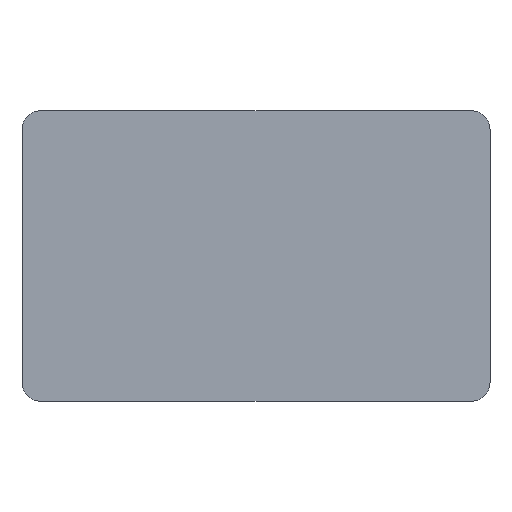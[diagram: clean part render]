
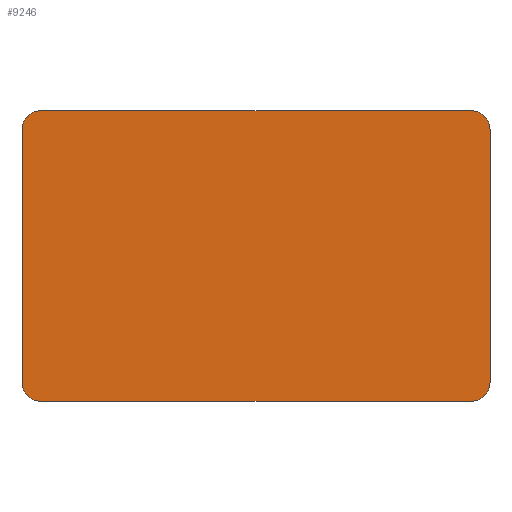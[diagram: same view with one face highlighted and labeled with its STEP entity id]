
A CAD part, front view. The second image highlights one B-rep face of the part: STEP entity #9246.
In plain terms, the highlighted planar face has unit normal (0, -1, 0).
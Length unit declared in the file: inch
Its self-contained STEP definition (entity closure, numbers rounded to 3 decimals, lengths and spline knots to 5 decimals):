
#164 = CARTESIAN_POINT ( 'NONE',  ( 6.05, -0.0852, -3.40919 ) ) ;
#1414 = DIRECTION ( 'NONE',  ( 0., -1., 0. ) ) ;
#1671 = VERTEX_POINT ( 'NONE', #2300 ) ;
#2300 = CARTESIAN_POINT ( 'NONE',  ( -0.25, -0.0852, -3.40919 ) ) ;
#2441 = CARTESIAN_POINT ( 'NONE',  ( 5.8, -0.0852, -3.40919 ) ) ;
#2520 = CARTESIAN_POINT ( 'NONE',  ( 6.05, -0.0852, 0. ) ) ;
#2766 = VECTOR ( 'NONE', #8151, 39.37008 ) ;
#3088 = CARTESIAN_POINT ( 'NONE',  ( 0., -0.0852, -3.65919 ) ) ;
#3163 = CARTESIAN_POINT ( 'NONE',  ( 5.8, -0.0852, -3.65919 ) ) ;
#3184 = CARTESIAN_POINT ( 'NONE',  ( -0.25, -0.0852, 0. ) ) ;
#3260 = VERTEX_POINT ( 'NONE', #3184 ) ;
#3527 = CARTESIAN_POINT ( 'NONE',  ( 5.8, -0.0852, 0. ) ) ;
#3736 = ORIENTED_EDGE ( 'NONE', *, *, #4603, .T. ) ;
#3836 = DIRECTION ( 'NONE',  ( 0., 0., -1. ) ) ;
#3912 = DIRECTION ( 'NONE',  ( 0., 0., 1. ) ) ;
#4274 = CARTESIAN_POINT ( 'NONE',  ( 0., -0.0852, -3.40919 ) ) ;
#4377 = ORIENTED_EDGE ( 'NONE', *, *, #9133, .T. ) ;
#4603 = EDGE_CURVE ( 'NONE', #16201, #9311, #10017, .T. ) ;
#4710 = FACE_OUTER_BOUND ( 'NONE', #6954, .T. ) ;
#4925 = DIRECTION ( 'NONE',  ( 0., 0., -1. ) ) ;
#5370 = VERTEX_POINT ( 'NONE', #7705 ) ;
#5395 = CARTESIAN_POINT ( 'NONE',  ( 5.8, -0.0852, 0.25 ) ) ;
#5514 = ORIENTED_EDGE ( 'NONE', *, *, #9632, .T. ) ;
#5594 = LINE ( 'NONE', #2520, #12485 ) ;
#5696 = DIRECTION ( 'NONE',  ( 0., 0., -1. ) ) ;
#6429 = DIRECTION ( 'NONE',  ( 0., -1., 0. ) ) ;
#6754 = CARTESIAN_POINT ( 'NONE',  ( 5.8, -0.0852, -3.65919 ) ) ;
#6954 = EDGE_LOOP ( 'NONE', ( #13425, #7963, #10149, #10437, #17003, #4377, #3736, #5514 ) ) ;
#7216 = CIRCLE ( 'NONE', #8807, 0.25 ) ;
#7514 = CARTESIAN_POINT ( 'NONE',  ( 5.8, -0.0852, 0.25 ) ) ;
#7559 = AXIS2_PLACEMENT_3D ( 'NONE', #2441, #12134, #3836 ) ;
#7598 = AXIS2_PLACEMENT_3D ( 'NONE', #4274, #13907, #5696 ) ;
#7705 = CARTESIAN_POINT ( 'NONE',  ( 6.05, -0.0852, 0. ) ) ;
#7963 = ORIENTED_EDGE ( 'NONE', *, *, #17476, .T. ) ;
#8151 = DIRECTION ( 'NONE',  ( 1., 0., 0. ) ) ;
#8807 = AXIS2_PLACEMENT_3D ( 'NONE', #3527, #13164, #4925 ) ;
#8905 = CIRCLE ( 'NONE', #12488, 0.25 ) ;
#9133 = EDGE_CURVE ( 'NONE', #13049, #16201, #17787, .T. ) ;
#9246 = ADVANCED_FACE ( 'NONE', ( #4710 ), #9697, .T. ) ;
#9311 = VERTEX_POINT ( 'NONE', #164 ) ;
#9344 = VECTOR ( 'NONE', #15247, 39.37008 ) ;
#9632 = EDGE_CURVE ( 'NONE', #9311, #5370, #5594, .T. ) ;
#9697 = PLANE ( 'NONE',  #11989 ) ;
#9791 = EDGE_CURVE ( 'NONE', #1671, #13049, #17560, .T. ) ;
#10017 = CIRCLE ( 'NONE', #7559, 0.25 ) ;
#10149 = ORIENTED_EDGE ( 'NONE', *, *, #17070, .T. ) ;
#10437 = ORIENTED_EDGE ( 'NONE', *, *, #16087, .T. ) ;
#10556 = VERTEX_POINT ( 'NONE', #11926 ) ;
#11197 = DIRECTION ( 'NONE',  ( 0., 0., -1. ) ) ;
#11688 = VECTOR ( 'NONE', #16379, 39.37008 ) ;
#11926 = CARTESIAN_POINT ( 'NONE',  ( 0., -0.0852, 0.25 ) ) ;
#11989 = AXIS2_PLACEMENT_3D ( 'NONE', #16556, #1414, #11197 ) ;
#12099 = LINE ( 'NONE', #5395, #11688 ) ;
#12134 = DIRECTION ( 'NONE',  ( 0., -1., 0. ) ) ;
#12485 = VECTOR ( 'NONE', #3912, 39.37008 ) ;
#12488 = AXIS2_PLACEMENT_3D ( 'NONE', #14610, #6429, #16005 ) ;
#12530 = LINE ( 'NONE', #13894, #9344 ) ;
#13049 = VERTEX_POINT ( 'NONE', #3088 ) ;
#13164 = DIRECTION ( 'NONE',  ( 0., -1., 0. ) ) ;
#13425 = ORIENTED_EDGE ( 'NONE', *, *, #14387, .T. ) ;
#13781 = VERTEX_POINT ( 'NONE', #7514 ) ;
#13894 = CARTESIAN_POINT ( 'NONE',  ( -0.25, -0.0852, 0. ) ) ;
#13907 = DIRECTION ( 'NONE',  ( 0., -1., 0. ) ) ;
#14387 = EDGE_CURVE ( 'NONE', #5370, #13781, #7216, .T. ) ;
#14610 = CARTESIAN_POINT ( 'NONE',  ( 0., -0.0852, 0. ) ) ;
#15247 = DIRECTION ( 'NONE',  ( 0., 0., -1. ) ) ;
#16005 = DIRECTION ( 'NONE',  ( 0., 0., -1. ) ) ;
#16087 = EDGE_CURVE ( 'NONE', #3260, #1671, #12530, .T. ) ;
#16201 = VERTEX_POINT ( 'NONE', #3163 ) ;
#16379 = DIRECTION ( 'NONE',  ( -1., 0., 0. ) ) ;
#16556 = CARTESIAN_POINT ( 'NONE',  ( 5.8, -0.0852, 0. ) ) ;
#17003 = ORIENTED_EDGE ( 'NONE', *, *, #9791, .T. ) ;
#17070 = EDGE_CURVE ( 'NONE', #10556, #3260, #8905, .T. ) ;
#17476 = EDGE_CURVE ( 'NONE', #13781, #10556, #12099, .T. ) ;
#17560 = CIRCLE ( 'NONE', #7598, 0.25 ) ;
#17787 = LINE ( 'NONE', #6754, #2766 ) ;
